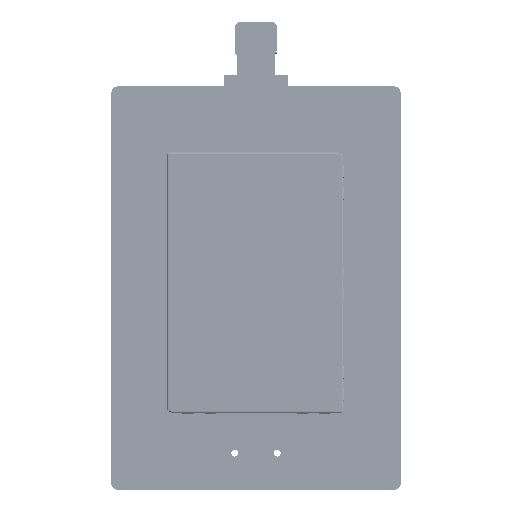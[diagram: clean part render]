
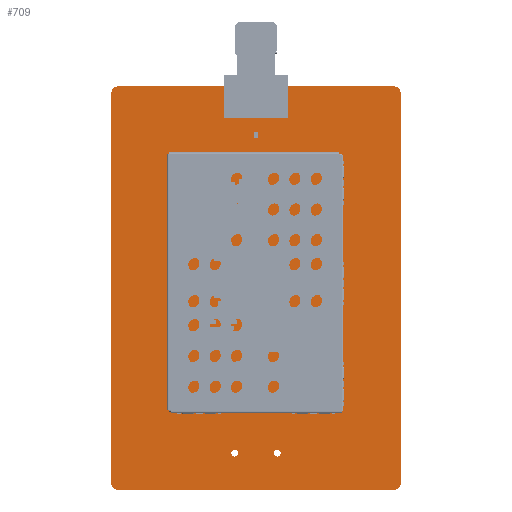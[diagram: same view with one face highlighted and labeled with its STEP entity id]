
A CAD part, top view. The second image highlights one B-rep face of the part: STEP entity #709.
In plain terms, the highlighted planar face has unit normal (0, 0, 1).
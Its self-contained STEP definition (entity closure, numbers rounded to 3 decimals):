
#372 = VERTEX_POINT('',#373);
#373 = CARTESIAN_POINT('',(0.,1.,1.56));
#379 = EDGE_CURVE('',#372,#380,#382,.T.);
#380 = VERTEX_POINT('',#381);
#381 = CARTESIAN_POINT('',(1.,0.,1.56));
#382 = CIRCLE('',#383,1.);
#383 = AXIS2_PLACEMENT_3D('',#384,#385,#386);
#384 = CARTESIAN_POINT('',(1.,1.,1.56));
#385 = DIRECTION('',(0.,0.,1.));
#386 = DIRECTION('',(-1.,0.,0.));
#412 = EDGE_CURVE('',#380,#413,#415,.T.);
#413 = VERTEX_POINT('',#414);
#414 = CARTESIAN_POINT('',(42.,0.,1.56));
#415 = LINE('',#416,#417);
#416 = CARTESIAN_POINT('',(1.,0.,1.56));
#417 = VECTOR('',#418,1.);
#418 = DIRECTION('',(1.,0.,0.));
#443 = EDGE_CURVE('',#413,#444,#446,.T.);
#444 = VERTEX_POINT('',#445);
#445 = CARTESIAN_POINT('',(43.,1.,1.56));
#446 = CIRCLE('',#447,1.);
#447 = AXIS2_PLACEMENT_3D('',#448,#449,#450);
#448 = CARTESIAN_POINT('',(42.,1.,1.56));
#449 = DIRECTION('',(0.,0.,1.));
#450 = DIRECTION('',(0.,-1.,0.));
#476 = EDGE_CURVE('',#444,#477,#479,.T.);
#477 = VERTEX_POINT('',#478);
#478 = CARTESIAN_POINT('',(43.,59.,1.56));
#479 = LINE('',#480,#481);
#480 = CARTESIAN_POINT('',(43.,1.,1.56));
#481 = VECTOR('',#482,1.);
#482 = DIRECTION('',(0.,1.,0.));
#507 = EDGE_CURVE('',#477,#508,#510,.T.);
#508 = VERTEX_POINT('',#509);
#509 = CARTESIAN_POINT('',(42.,60.,1.56));
#510 = CIRCLE('',#511,1.);
#511 = AXIS2_PLACEMENT_3D('',#512,#513,#514);
#512 = CARTESIAN_POINT('',(42.,59.,1.56));
#513 = DIRECTION('',(0.,0.,1.));
#514 = DIRECTION('',(1.,0.,-0.));
#540 = EDGE_CURVE('',#508,#541,#543,.T.);
#541 = VERTEX_POINT('',#542);
#542 = CARTESIAN_POINT('',(1.,60.,1.56));
#543 = LINE('',#544,#545);
#544 = CARTESIAN_POINT('',(42.,60.,1.56));
#545 = VECTOR('',#546,1.);
#546 = DIRECTION('',(-1.,0.,0.));
#571 = EDGE_CURVE('',#541,#572,#574,.T.);
#572 = VERTEX_POINT('',#573);
#573 = CARTESIAN_POINT('',(0.,59.,1.56));
#574 = CIRCLE('',#575,1.);
#575 = AXIS2_PLACEMENT_3D('',#576,#577,#578);
#576 = CARTESIAN_POINT('',(1.,59.,1.56));
#577 = DIRECTION('',(0.,0.,1.));
#578 = DIRECTION('',(0.,1.,0.));
#604 = EDGE_CURVE('',#572,#372,#605,.T.);
#605 = LINE('',#606,#607);
#606 = CARTESIAN_POINT('',(0.,59.,1.56));
#607 = VECTOR('',#608,1.);
#608 = DIRECTION('',(0.,-1.,0.));
#628 = VERTEX_POINT('',#629);
#629 = CARTESIAN_POINT('',(18.825,5.465,1.56));
#635 = EDGE_CURVE('',#628,#628,#636,.T.);
#636 = CIRCLE('',#637,0.5);
#637 = AXIS2_PLACEMENT_3D('',#638,#639,#640);
#638 = CARTESIAN_POINT('',(18.325,5.465,1.56));
#639 = DIRECTION('',(0.,0.,1.));
#640 = DIRECTION('',(1.,0.,-0.));
#661 = VERTEX_POINT('',#662);
#662 = CARTESIAN_POINT('',(25.175,5.465,1.56));
#668 = EDGE_CURVE('',#661,#661,#669,.T.);
#669 = CIRCLE('',#670,0.5);
#670 = AXIS2_PLACEMENT_3D('',#671,#672,#673);
#671 = CARTESIAN_POINT('',(24.675,5.465,1.56));
#672 = DIRECTION('',(0.,0.,1.));
#673 = DIRECTION('',(1.,0.,-0.));
#709 = ADVANCED_FACE('',(#710,#720,#723),#726,.T.);
#710 = FACE_BOUND('',#711,.T.);
#711 = EDGE_LOOP('',(#712,#713,#714,#715,#716,#717,#718,#719));
#712 = ORIENTED_EDGE('',*,*,#379,.T.);
#713 = ORIENTED_EDGE('',*,*,#412,.T.);
#714 = ORIENTED_EDGE('',*,*,#443,.T.);
#715 = ORIENTED_EDGE('',*,*,#476,.T.);
#716 = ORIENTED_EDGE('',*,*,#507,.T.);
#717 = ORIENTED_EDGE('',*,*,#540,.T.);
#718 = ORIENTED_EDGE('',*,*,#571,.T.);
#719 = ORIENTED_EDGE('',*,*,#604,.T.);
#720 = FACE_BOUND('',#721,.T.);
#721 = EDGE_LOOP('',(#722));
#722 = ORIENTED_EDGE('',*,*,#635,.F.);
#723 = FACE_BOUND('',#724,.T.);
#724 = EDGE_LOOP('',(#725));
#725 = ORIENTED_EDGE('',*,*,#668,.F.);
#726 = PLANE('',#727);
#727 = AXIS2_PLACEMENT_3D('',#728,#729,#730);
#728 = CARTESIAN_POINT('',(21.5,30.,1.56));
#729 = DIRECTION('',(0.,0.,1.));
#730 = DIRECTION('',(1.,0.,-0.));
